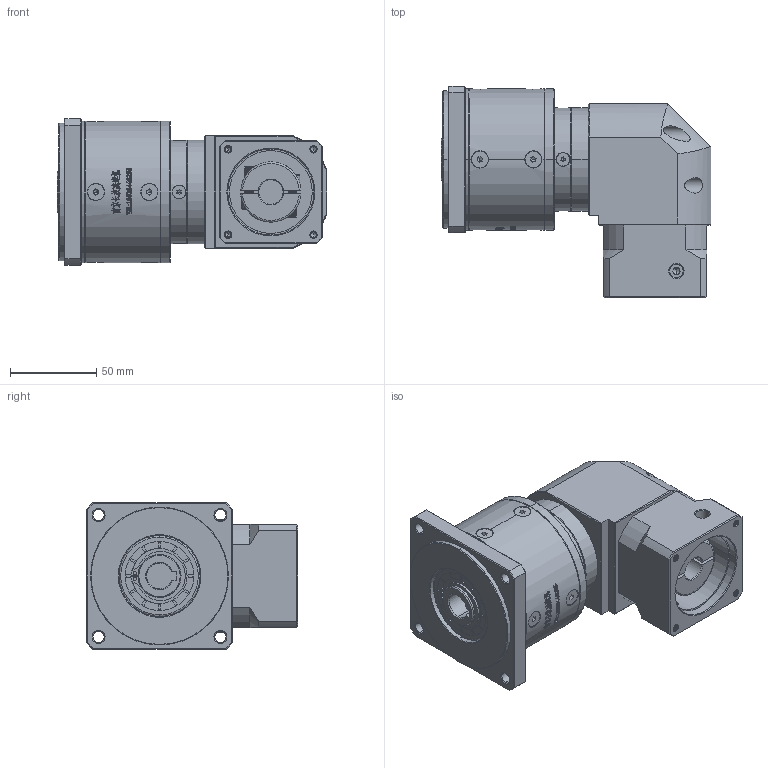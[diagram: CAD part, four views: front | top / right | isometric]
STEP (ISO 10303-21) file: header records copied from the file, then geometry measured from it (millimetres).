
FILE_DESCRIPTION (( 'STEP AP214' ), '1' );
FILE_NAME ('ZFR80-K15-L2-14-50-70-M4.step', '2022-05-08T14:58:23', ( '' ), ( 'Microsoft' ), 'SwSTEP 2.0', 'SolidWorks 2016', '' );
FILE_SCHEMA (( 'AUTOMOTIVE_DESIGN' ));
Length unit declared in the file: millimetre
Products named in the file (1): ZFR80-K15-L2-14-50-70-M4
Bounding box: 156.5 x 122.7 x 85 mm (x, y, z)
Volume: 767622.8 mm3; surface area: 100960.3 mm2
Topology: 17 solids, 18 shells, 3020 faces, 8034 edges, 5170 vertices
Faces by surface type: plane 1594, bspline 610, cylinder 433, cone 375, torus 8
Entity records: 157271 total; most frequent: CARTESIAN_POINT 54153, ORIENTED_EDGE 15980, DIRECTION 12161, EDGE_CURVE 7990, VERTEX_POINT 5170, LINE 4925, VECTOR 4925, AXIS2_PLACEMENT_3D 3618
